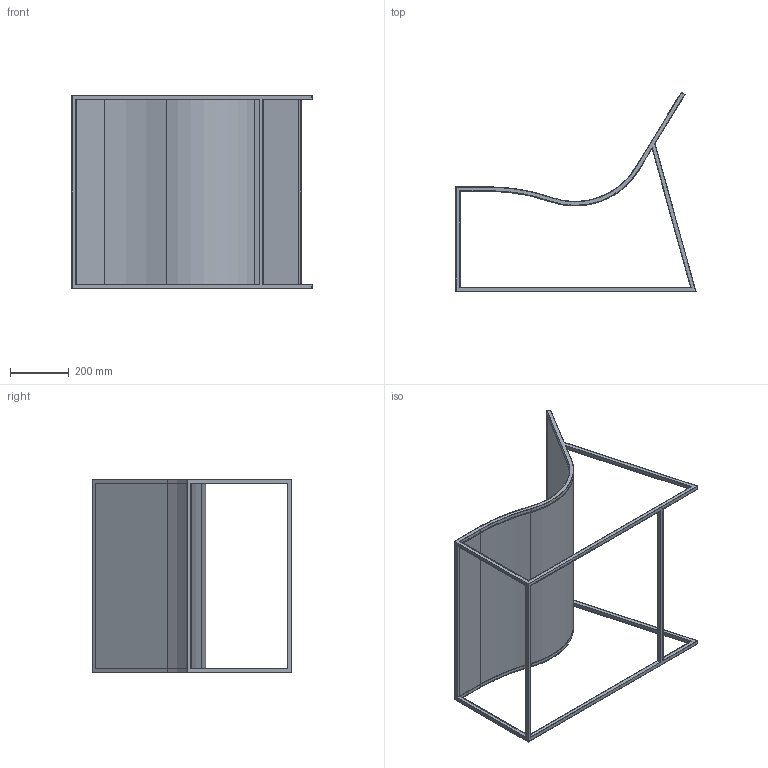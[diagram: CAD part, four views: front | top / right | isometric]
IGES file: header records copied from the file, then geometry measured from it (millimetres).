
Start section: SolidWorks IGES FILE using analytic representation for surfaces
Global section: file name: Z:\VIABLE 2006 TECNICO\OFICINA TECNICA\FABRICACIÓN\Producto\MODELADOS\HOLY DAY\HOLY DAY.IGS; native system: SolidWorks 2004 by SolidWorks Corporation; preprocessor: Version 5.3; author: DAVID204; date: 060425.115810; units: millimetre
Bounding box: 816 x 676.9 x 658 mm (x, y, z)
Surface area: 2024358 mm2 (no closed solid volume)
Topology: 0 solids, 0 shells, 92 faces, 852 edges, 852 vertices
Faces by surface type: bspline 72, revolution 20
